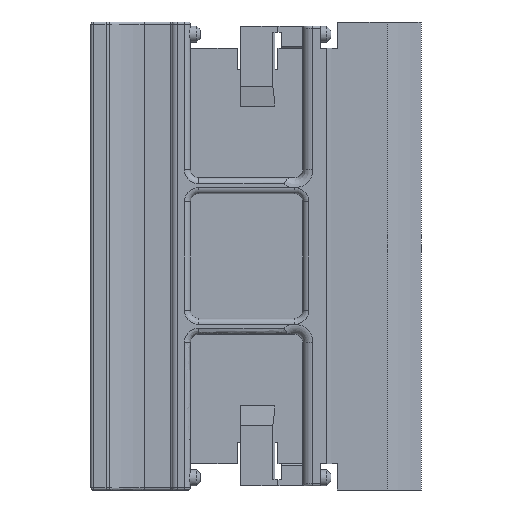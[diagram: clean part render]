
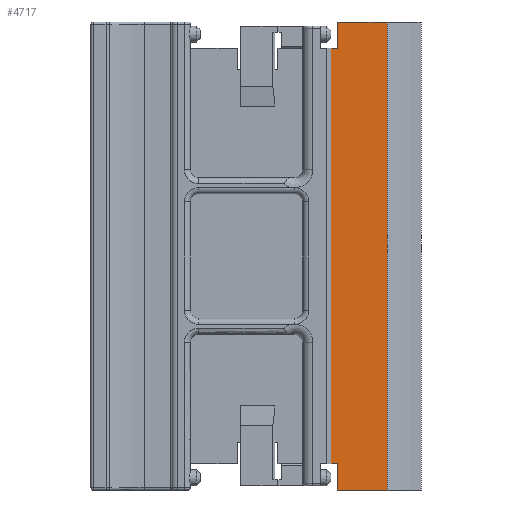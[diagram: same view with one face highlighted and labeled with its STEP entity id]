
A CAD part, front view. The second image highlights one B-rep face of the part: STEP entity #4717.
In plain terms, the highlighted planar face has unit normal (0, -1, 0).
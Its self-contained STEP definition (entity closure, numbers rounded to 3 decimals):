
#98=CARTESIAN_POINT('',(225.561,163.797,176.6));
#99=VERTEX_POINT('',#98);
#106=CARTESIAN_POINT('',(238.014,163.797,176.6));
#107=VERTEX_POINT('',#106);
#108=CARTESIAN_POINT('',(238.014,163.797,176.6));
#109=DIRECTION('',(-1.0,0.0,0.0));
#110=VECTOR('',#109,12.453);
#111=LINE('',#108,#110);
#112=EDGE_CURVE('',#107,#99,#111,.T.);
#4191=CARTESIAN_POINT('',(225.561,163.797,60.));
#4192=VERTEX_POINT('',#4191);
#4193=CARTESIAN_POINT('',(225.561,163.797,66.5));
#4194=VERTEX_POINT('',#4193);
#4195=CARTESIAN_POINT('',(225.561,163.797,60.));
#4196=DIRECTION('',(0.0,0.0,1.0));
#4197=VECTOR('',#4196,6.5);
#4198=LINE('',#4195,#4197);
#4199=EDGE_CURVE('',#4192,#4194,#4198,.T.);
#4222=CARTESIAN_POINT('',(223.962,163.797,66.5));
#4223=VERTEX_POINT('',#4222);
#4224=CARTESIAN_POINT('',(225.561,163.797,66.5));
#4225=DIRECTION('',(-1.0,0.0,0.0));
#4226=VECTOR('',#4225,1.6);
#4227=LINE('',#4224,#4226);
#4228=EDGE_CURVE('',#4194,#4223,#4227,.T.);
#4397=CARTESIAN_POINT('',(238.014,163.797,60.));
#4398=VERTEX_POINT('',#4397);
#4406=CARTESIAN_POINT('',(238.014,163.797,60.));
#4407=DIRECTION('',(-1.0,0.0,0.0));
#4408=VECTOR('',#4407,12.453);
#4409=LINE('',#4406,#4408);
#4410=EDGE_CURVE('',#4398,#4192,#4409,.T.);
#4666=CARTESIAN_POINT('',(223.962,163.797,170.1));
#4667=VERTEX_POINT('',#4666);
#4668=CARTESIAN_POINT('',(223.962,163.797,66.5));
#4669=DIRECTION('',(0.0,0.0,1.0));
#4670=VECTOR('',#4669,103.6);
#4671=LINE('',#4668,#4670);
#4672=EDGE_CURVE('',#4223,#4667,#4671,.T.);
#4685=CARTESIAN_POINT('',(238.014,163.797,0.0));
#4686=DIRECTION('',(0.0,-1.0,0.0));
#4687=DIRECTION('',(0.0,0.0,-1.0));
#4688=AXIS2_PLACEMENT_3D('',#4685,#4686,#4687);
#4689=PLANE('',#4688);
#4690=CARTESIAN_POINT('',(238.014,163.797,60.));
#4691=DIRECTION('',(0.0,0.0,1.0));
#4692=VECTOR('',#4691,116.6);
#4693=LINE('',#4690,#4692);
#4694=EDGE_CURVE('',#4398,#107,#4693,.T.);
#4695=ORIENTED_EDGE('',*,*,#4694,.T.);
#4696=ORIENTED_EDGE('',*,*,#112,.T.);
#4697=CARTESIAN_POINT('',(225.561,163.797,170.1));
#4698=VERTEX_POINT('',#4697);
#4699=CARTESIAN_POINT('',(225.561,163.797,176.6));
#4700=DIRECTION('',(0.0,0.0,-1.0));
#4701=VECTOR('',#4700,6.5);
#4702=LINE('',#4699,#4701);
#4703=EDGE_CURVE('',#99,#4698,#4702,.T.);
#4704=ORIENTED_EDGE('',*,*,#4703,.T.);
#4705=CARTESIAN_POINT('',(225.561,163.797,170.1));
#4706=DIRECTION('',(-1.0,0.0,0.0));
#4707=VECTOR('',#4706,1.6);
#4708=LINE('',#4705,#4707);
#4709=EDGE_CURVE('',#4698,#4667,#4708,.T.);
#4710=ORIENTED_EDGE('',*,*,#4709,.T.);
#4711=ORIENTED_EDGE('',*,*,#4672,.F.);
#4712=ORIENTED_EDGE('',*,*,#4228,.F.);
#4713=ORIENTED_EDGE('',*,*,#4199,.F.);
#4714=ORIENTED_EDGE('',*,*,#4410,.F.);
#4715=EDGE_LOOP('',(#4695,#4696,#4704,#4710,#4711,#4712,#4713,#4714));
#4716=FACE_OUTER_BOUND('',#4715,.T.);
#4717=ADVANCED_FACE('',(#4716),#4689,.T.);
